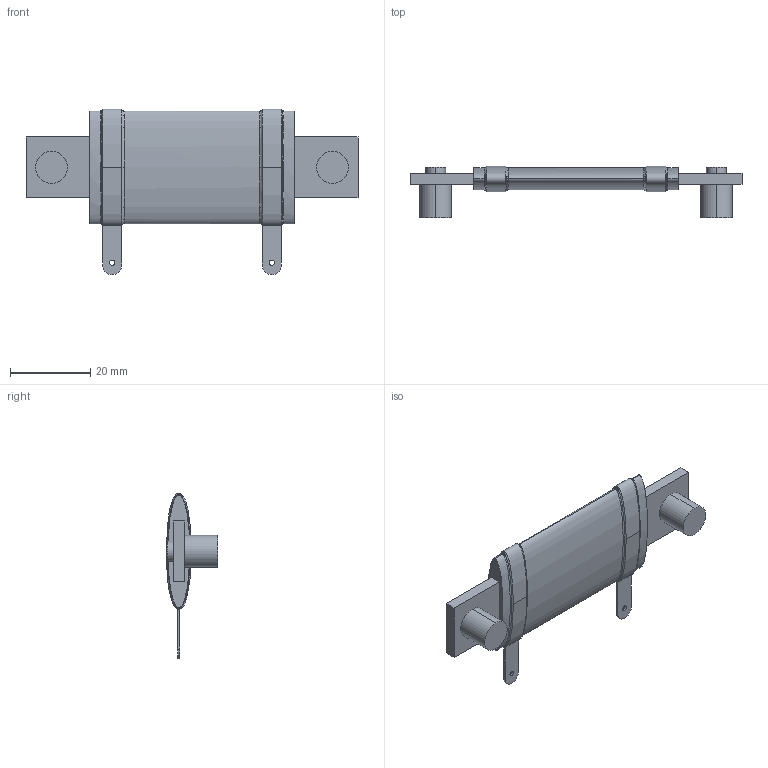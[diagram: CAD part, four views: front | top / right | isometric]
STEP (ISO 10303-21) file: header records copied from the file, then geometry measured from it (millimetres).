
FILE_DESCRIPTION (( 'STEP AP203' ), '1' );
FILE_NAME ('FSOT40-16E.STEP', '2019-11-04T15:53:50', ( '' ), ( '' ), 'SwSTEP 2.0', 'SolidWorks 2019', '' );
FILE_SCHEMA (( 'CONFIG_CONTROL_DESIGN' ));
Length unit declared in the file: millimetre
Products named in the file (1): FSOT40-16E
Bounding box: 82.56 x 12.91 x 41.12 mm (x, y, z)
Volume: 8668.5 mm3; surface area: 5133.5 mm2
Topology: 1 solids, 1 shells, 120 faces, 316 edges, 204 vertices
Faces by surface type: bspline 80, plane 24, cylinder 16
Entity records: 6381 total; most frequent: CARTESIAN_POINT 3879, ORIENTED_EDGE 632, DIRECTION 328, EDGE_CURVE 316, VERTEX_POINT 204, B_SPLINE_CURVE_WITH_KNOTS 158, AXIS2_PLACEMENT_3D 133, EDGE_LOOP 130
